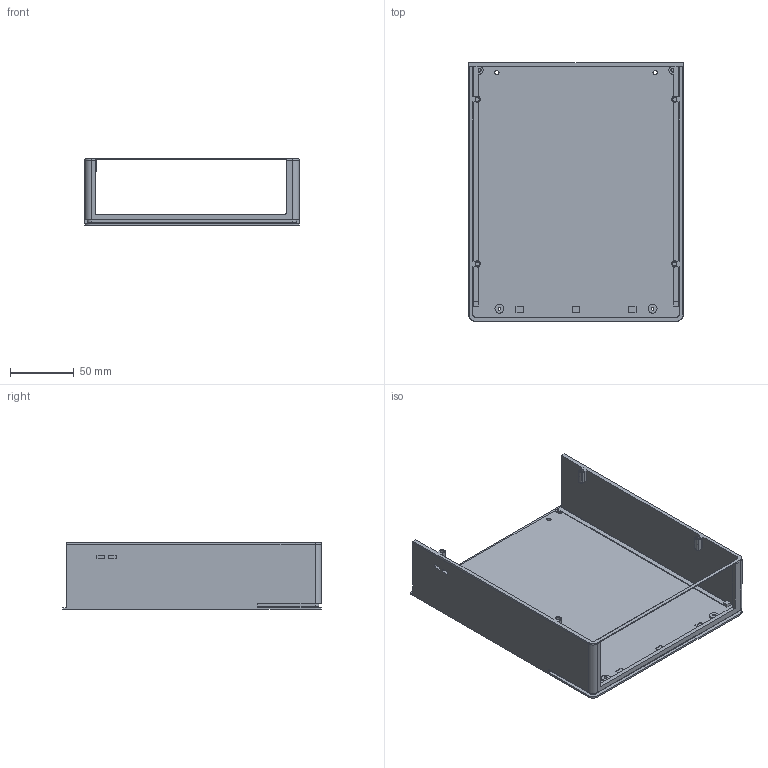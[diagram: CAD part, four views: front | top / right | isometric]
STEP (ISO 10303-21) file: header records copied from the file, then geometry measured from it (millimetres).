
FILE_DESCRIPTION(('Open CASCADE Model'),'2;1');
FILE_NAME('Open CASCADE Shape Model','2026-11-07T23:25:40',('Author'),( 'Open CASCADE'),'Open CASCADE STEP processor 7.9','Open CASCADE 7.9' ,'Unknown');
FILE_SCHEMA(('AUTOMOTIVE_DESIGN { 1 0 10303 214 1 1 1 1 }'));
Length unit declared in the file: millimetre
Products named in the file (1): Open CASCADE STEP translator 7.9 1
Bounding box: 168 x 203 x 52.2 mm (x, y, z)
Volume: 161840.4 mm3; surface area: 117047.1 mm2
Topology: 1 solids, 1 shells, 163 faces, 439 edges, 291 vertices
Faces by surface type: plane 116, cylinder 43, revolution 2, cone 2
Full cylindrical faces by diameter (mm): 2.2 x2, 3.23 x4, 3.3 x2, 7 x2
Entity records: 10873 total; most frequent: CARTESIAN_POINT 2416, DIRECTION 1446, LINE 881, VECTOR 881, ORIENTED_EDGE 878, PCURVE 878, DEFINITIONAL_REPRESENTATION 878, EDGE_CURVE 439
